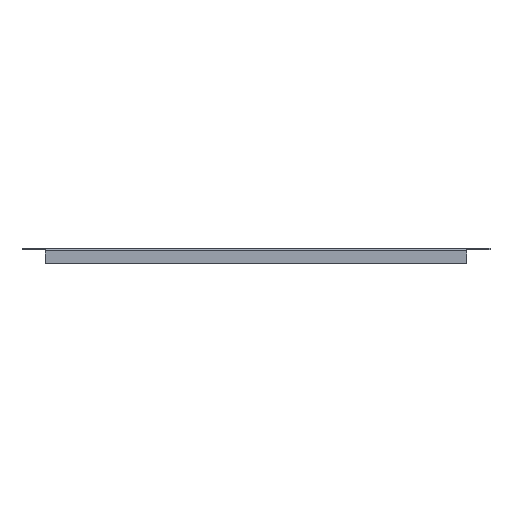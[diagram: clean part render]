
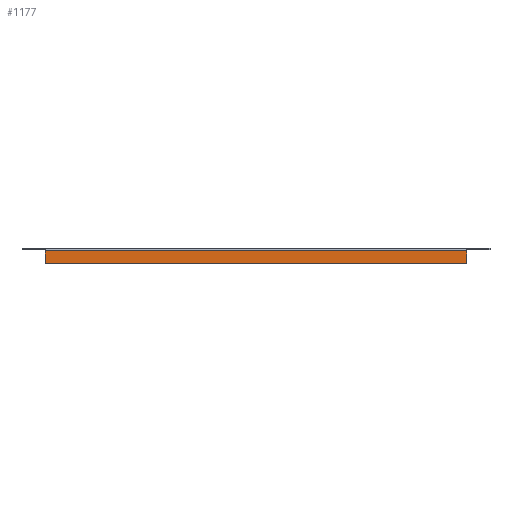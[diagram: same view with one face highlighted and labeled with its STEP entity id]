
A CAD part, front view. The second image highlights one B-rep face of the part: STEP entity #1177.
In plain terms, the highlighted planar face has unit normal (0, -1, 0).
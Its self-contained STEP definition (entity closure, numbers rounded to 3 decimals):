
#199 = DIRECTION ( 'NONE',  ( -1., 0., 0. ) ) ;
#200 = CARTESIAN_POINT ( 'NONE',  ( 209.5, -99.5, -13.8 ) ) ;
#201 = LINE ( 'NONE', #200, #939 ) ;
#244 = DIRECTION ( 'NONE',  ( 1., 0., 0. ) ) ;
#245 = CARTESIAN_POINT ( 'NONE',  ( 209.5, -99.5, -1.2 ) ) ;
#246 = LINE ( 'NONE', #245, #954 ) ;
#256 = DIRECTION ( 'NONE',  ( 0., 0., -1. ) ) ;
#257 = CARTESIAN_POINT ( 'NONE',  ( 209.5, -99.5, 0. ) ) ;
#258 = LINE ( 'NONE', #257, #959 ) ;
#262 = DIRECTION ( 'NONE',  ( 0., 0., 1. ) ) ;
#263 = CARTESIAN_POINT ( 'NONE',  ( -209.5, -99.5, -13.8 ) ) ;
#264 = LINE ( 'NONE', #263, #964 ) ;
#374 = CARTESIAN_POINT ( 'NONE',  ( 209.5, -99.5, -1.2 ) ) ;
#377 = CARTESIAN_POINT ( 'NONE',  ( -209.5, -99.5, -1.2 ) ) ;
#379 = CARTESIAN_POINT ( 'NONE',  ( 209.5, -99.5, -13.8 ) ) ;
#380 = CARTESIAN_POINT ( 'NONE',  ( -209.5, -99.5, -13.8 ) ) ;
#383 = VERTEX_POINT ( 'NONE', #380 ) ;
#384 = VERTEX_POINT ( 'NONE', #379 ) ;
#386 = VERTEX_POINT ( 'NONE', #377 ) ;
#389 = VERTEX_POINT ( 'NONE', #374 ) ;
#527 = EDGE_LOOP ( 'NONE', ( #592, #623, #622, #624 ) ) ;
#592 = ORIENTED_EDGE ( 'NONE', *, *, #1044, .F. ) ;
#622 = ORIENTED_EDGE ( 'NONE', *, *, #1059, .F. ) ;
#623 = ORIENTED_EDGE ( 'NONE', *, *, #1038, .F. ) ;
#624 = ORIENTED_EDGE ( 'NONE', *, *, #1040, .F. ) ;
#829 = DIRECTION ( 'NONE',  ( 0., 0., 1. ) ) ;
#830 = DIRECTION ( 'NONE',  ( 0., 1., 0. ) ) ;
#831 = CARTESIAN_POINT ( 'NONE',  ( 209.5, -99.5, 0. ) ) ;
#832 = PLANE ( 'NONE',  #977 ) ;
#939 = VECTOR ( 'NONE', #199, 1000. ) ;
#954 = VECTOR ( 'NONE', #244, 1000. ) ;
#959 = VECTOR ( 'NONE', #256, 1000. ) ;
#964 = VECTOR ( 'NONE', #262, 1000. ) ;
#970 = FACE_OUTER_BOUND ( 'NONE', #527, .T. ) ;
#977 = AXIS2_PLACEMENT_3D ( 'NONE', #831, #830, #829 ) ;
#1038 = EDGE_CURVE ( 'NONE', #383, #386, #264, .T. ) ;
#1040 = EDGE_CURVE ( 'NONE', #389, #384, #258, .T. ) ;
#1044 = EDGE_CURVE ( 'NONE', #386, #389, #246, .T. ) ;
#1059 = EDGE_CURVE ( 'NONE', #384, #383, #201, .T. ) ;
#1177 = ADVANCED_FACE ( 'NONE', ( #970 ), #832, .F. ) ;
